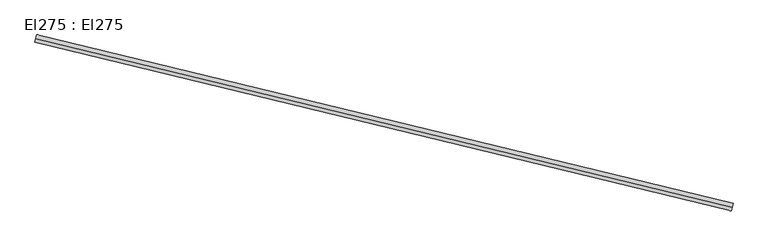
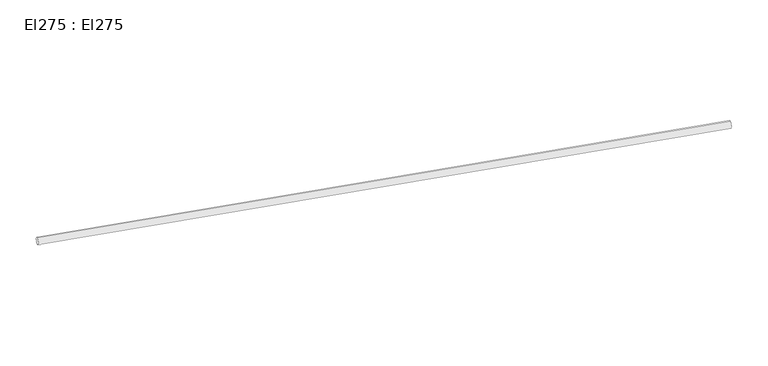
"""IFC4 building model written with IfcOpenShell, lengths in millimetres: cable carrier segment geometry, El275 : El275."""

import ifcopenshell
import ifcopenshell.guid

model = None  # the IFC model being written
_history = None  # IfcOwnerHistory: only IFC2X3 demands one
_inside = {}  # id of a spatial element -> (the spatial element, [elements in it])
_under = {}  # id of a project, library or spatial element -> (it, [spatial elements below it])
_declared = {}  # id of a project -> (the project, [libraries it declares])
_typed = {}  # id of a type object -> (the type object, [elements of that type])
_made_of = {}  # id of a material, layer set ... -> (it, [elements and type objects made of it])


def new_model(schema):
    """Start an empty IFC model of exactly this schema.

    Asked for "IFC4X3", IfcOpenShell would pick the latest addendum, in which some entities
    have other attributes; the version numbers below select the first issue.
    IFC2X3 requires an IfcOwnerHistory on every rooted entity: one is made here for all.
    """
    global model, _history
    if schema == "IFC4X3":
        model = ifcopenshell.file(schema_version=(4, 3, 0, 0))
    else:
        model = ifcopenshell.file(schema=schema)
    _inside.clear()
    _under.clear()
    _declared.clear()
    _typed.clear()
    _made_of.clear()
    _history = None
    if model.schema == "IFC2X3":
        org = make("IfcOrganization", Name="unknown")
        user = make(
            "IfcPersonAndOrganization",
            ThePerson=make("IfcPerson", FamilyName="unknown"),
            TheOrganization=org,
        )
        app = make(
            "IfcApplication",
            ApplicationDeveloper=org,
            Version="unknown",
            ApplicationFullName="unknown",
            ApplicationIdentifier="unknown",
        )
        _history = make(
            "IfcOwnerHistory",
            OwningUser=user,
            OwningApplication=app,
            ChangeAction="ADDED",
            CreationDate=0,
        )
    return model


def make(cls, **values):
    """One entity of the class cls with the attributes given. An attribute that is None is left unset."""
    return model.create_entity(
        cls, **{name: value for name, value in values.items() if value is not None}
    )


def rooted(cls, **values):
    """An entity with a GlobalId (a new one), such as an element, a storey or a relation."""
    return make(cls, GlobalId=ifcopenshell.guid.new(), OwnerHistory=_history, **values)


def si_unit(unit_type, name, prefix=None):
    """IfcSIUnit, for example si_unit("LENGTHUNIT", "METRE", prefix="MILLI")."""
    return make("IfcSIUnit", UnitType=unit_type, Prefix=prefix, Name=name)


def assignment(units):
    """IfcUnitAssignment: the units of a project."""
    return None if units is None else make("IfcUnitAssignment", Units=units)


def point(xyz):
    """IfcCartesianPoint."""
    return None if xyz is None else make("IfcCartesianPoint", Coordinates=xyz)


def direction(xyz):
    """IfcDirection."""
    return None if xyz is None else make("IfcDirection", DirectionRatios=xyz)


def frame(location, z_axis=None, x_axis=None):
    """IfcAxis2Placement3D, a coordinate frame: its origin and axes. An axis left out is left unset."""
    return make(
        "IfcAxis2Placement3D",
        Location=point(location),
        Axis=direction(z_axis),
        RefDirection=direction(x_axis),
    )


def frame_2d(location, x_axis=None):
    """IfcAxis2Placement2D, a coordinate frame in the plane: its origin and x axis."""
    return make(
        "IfcAxis2Placement2D", Location=point(location), RefDirection=direction(x_axis)
    )


def origin():
    """The frame at (0, 0, 0) with its axes left unset."""
    return frame((0.0, 0.0, 0.0))


def place(relative_to, where):
    """IfcLocalPlacement: puts the frame where relative to a parent placement (None: the world)."""
    return make(
        "IfcLocalPlacement", PlacementRelTo=relative_to, RelativePlacement=where
    )


def context(
    kind, dimensions, precision=None, world=None, true_north=None, identifier=None
):
    """IfcGeometricRepresentationContext, for example the 3D "Model" context."""
    return make(
        "IfcGeometricRepresentationContext",
        ContextIdentifier=identifier,
        ContextType=kind,
        CoordinateSpaceDimension=dimensions,
        Precision=precision,
        WorldCoordinateSystem=world,
        TrueNorth=true_north,
    )


def project(units=None, contexts=None):
    """IfcProject with its units and contexts."""
    return rooted(
        "IfcProject",
        Name="project",
        RepresentationContexts=contexts,
        UnitsInContext=assignment(units),
    )


def spatial(cls, under=None, at=None, **own):
    """A site, building, storey or space (cls), placed at a placement, below another one or the project."""
    s = rooted(cls, ObjectPlacement=at, **own)
    if under is not None:
        _under.setdefault(under.id(), (under, []))[1].append(s)
    return s


def circle_curve(where, radius):
    """IfcCircle in the frame where."""
    return make("IfcCircle", Position=where, Radius=radius)


def trimmed(basis, trim1, trim2, sense, master):
    """IfcTrimmedCurve: the piece of a basis curve between two trims."""
    return make(
        "IfcTrimmedCurve",
        BasisCurve=basis,
        Trim1=trim1,
        Trim2=trim2,
        SenseAgreement=sense,
        MasterRepresentation=master,
    )


def segment(curve, same_sense, transition):
    """IfcCompositeCurveSegment."""
    return make(
        "IfcCompositeCurveSegment",
        Transition=transition,
        SameSense=same_sense,
        ParentCurve=curve,
    )


def composite_curve(segments, self_intersect=None):
    """IfcCompositeCurve: segments joined end to end."""
    return make("IfcCompositeCurve", Segments=segments, SelfIntersect=self_intersect)


def outline(outer, holes=None, kind="AREA"):
    """IfcArbitraryClosedProfileDef: a profile drawn as a closed curve; with holes, ...WithVoids."""
    if holes is None:
        return make("IfcArbitraryClosedProfileDef", ProfileType=kind, OuterCurve=outer)
    return make(
        "IfcArbitraryProfileDefWithVoids",
        ProfileType=kind,
        OuterCurve=outer,
        InnerCurves=holes,
    )


def extrude(swept, where, along, depth):
    """IfcExtrudedAreaSolid: the profile swept, set in the frame where, extruded along a direction by depth."""
    return make(
        "IfcExtrudedAreaSolid",
        SweptArea=swept,
        Position=where,
        ExtrudedDirection=direction(along),
        Depth=depth,
    )


def shape(context_of_items, identifier, shape_type, items):
    """IfcShapeRepresentation: the items that make up one representation, for example the "Body"."""
    return make(
        "IfcShapeRepresentation",
        ContextOfItems=context_of_items,
        RepresentationIdentifier=identifier,
        RepresentationType=shape_type,
        Items=items,
    )


def source(mapping_origin, context_of_items, identifier, shape_type, items):
    """IfcRepresentationMap: a shape defined once, which mapped items show again and again."""
    return make(
        "IfcRepresentationMap",
        MappingOrigin=mapping_origin,
        MappedRepresentation=shape(context_of_items, identifier, shape_type, items),
    )


def transform(
    local_origin,
    x_axis=None,
    y_axis=None,
    z_axis=None,
    scale=None,
    scale2=None,
    scale3=None,
    uniform=True,
):
    """IfcCartesianTransformationOperator3D, or its non-uniform kind. x_axis, y_axis, z_axis: its Axis1, 2, 3."""
    if uniform:
        return make(
            "IfcCartesianTransformationOperator3D",
            Axis1=direction(x_axis),
            Axis2=direction(y_axis),
            LocalOrigin=point(local_origin),
            Scale=scale,
            Axis3=direction(z_axis),
        )
    return make(
        "IfcCartesianTransformationOperator3DnonUniform",
        Axis1=direction(x_axis),
        Axis2=direction(y_axis),
        LocalOrigin=point(local_origin),
        Scale=scale,
        Axis3=direction(z_axis),
        Scale2=scale2,
        Scale3=scale3,
    )


def mapped(mapping_source, mapping_target):
    """IfcMappedItem: shows the shape of a source again, moved by a transform."""
    return make(
        "IfcMappedItem", MappingSource=mapping_source, MappingTarget=mapping_target
    )


def made_of(thing, what):
    """Note that an element or type object is made of a material, layer set ...; save() writes the relation."""
    if what is not None:
        _made_of.setdefault(what.id(), (what, []))[1].append(thing)
    return thing


def element(
    cls,
    number,
    at=None,
    inside=None,
    cuts=None,
    type_object=None,
    material=None,
    context=None,
    identifier="Body",
    shape_type=None,
    held_by="IfcProductDefinitionShape",
    body=None,
    shapes=None,
    **own,
):
    """One element of the class cls, such as IfcWall. Its Tag is "e" and its number.

    at: its placement. inside: the storey or other place that contains it. cuts: it is an
    opening in that element (IfcRelVoidsElement). A single representation is given by context,
    identifier, shape_type and body (its items); several are given by shapes. held_by: the class
    of the entity that holds the representations. save() writes the other relations.
    """
    e = rooted(cls, Tag="e%d" % number, ObjectPlacement=at, **own)
    if body is not None:
        shapes = [shape(context, identifier, shape_type, body)]
    if shapes is not None:
        e.Representation = make(held_by, Representations=shapes)
    if inside is not None:
        _inside.setdefault(inside.id(), (inside, []))[1].append(e)
    if cuts is not None:
        rooted(
            "IfcRelVoidsElement", RelatingBuildingElement=cuts, RelatedOpeningElement=e
        )
    if type_object is not None:
        _typed.setdefault(type_object.id(), (type_object, []))[1].append(e)
    return made_of(e, material)


def aggregate(whole, parts):
    """IfcRelAggregates: a whole, such as a stair, and the parts it consists of."""
    return rooted("IfcRelAggregates", RelatingObject=whole, RelatedObjects=parts)


def save(model, path):
    """Write the relations noted so far, then the file.

    IfcRelAggregates (storeys below a building ...), IfcRelContainedInSpatialStructure (elements
    in a storey), IfcRelDefinesByType, IfcRelAssociatesMaterial and IfcRelDeclares: one each for
    every whole, place, type object, material and project.
    """
    for whole, parts in _under.values():
        aggregate(whole, parts)
    for where, things in _inside.values():
        rooted(
            "IfcRelContainedInSpatialStructure",
            RelatedElements=things,
            RelatingStructure=where,
        )
    for kind, things in _typed.values():
        rooted("IfcRelDefinesByType", RelatedObjects=things, RelatingType=kind)
    for what, things in _made_of.values():
        rooted("IfcRelAssociatesMaterial", RelatedObjects=things, RelatingMaterial=what)
    for by, libraries in _declared.values():
        rooted("IfcRelDeclares", RelatingContext=by, RelatedDefinitions=libraries)
    model.write(path)


def el275_el275_fef97887(model_context):
    return source(origin(), model_context, "Body", "SweptSolid", [
        extrude(outline(composite_curve([segment(trimmed(circle_curve(frame_2d((0.0, -9.5)), 9.5), [point((0.0, -19.0))], [point((0.0, 0.0))], False, "CARTESIAN"), True, "CONTINUOUS"), segment(trimmed(circle_curve(frame_2d((0.0, -9.5)), 9.5), [point((0.0, 0.0))], [point((0.0, -19.0))], False, "CARTESIAN"), True, "CONTINUOUS")], self_intersect=False)), frame((9594.2813237, 28678.0474421, 2959.5), z_axis=(-0.9717710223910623, 0.2359260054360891, 0.0), x_axis=(-0.2359260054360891, -0.9717710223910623, 0.0)), (0.0, 0.0, 1.0), 1800.16),
    ])


if __name__ == "__main__":
    model = new_model("IFC4")
    model_context = context("Model", 3, world=origin())
    ifc_project = project(units=[si_unit("LENGTHUNIT", "METRE", prefix="MILLI")], contexts=[model_context])
    site = spatial("IfcSite", under=ifc_project)
    building = spatial("IfcBuilding", under=site)
    placement = place(None, origin())
    el275_el275_shape = el275_el275_fef97887(model_context)
    element("IfcCableCarrierSegment", 1, ObjectType="El275 : El275", at=placement, inside=building, context=model_context, shape_type="MappedRepresentation", body=[
        mapped(el275_el275_shape, transform((0.0, 0.0, 0.0), x_axis=(1.0, 0.0, 0.0), y_axis=(0.0, 1.0, 0.0), z_axis=(0.0, 0.0, 1.0))),
    ])
    save(model, "model.ifc")
